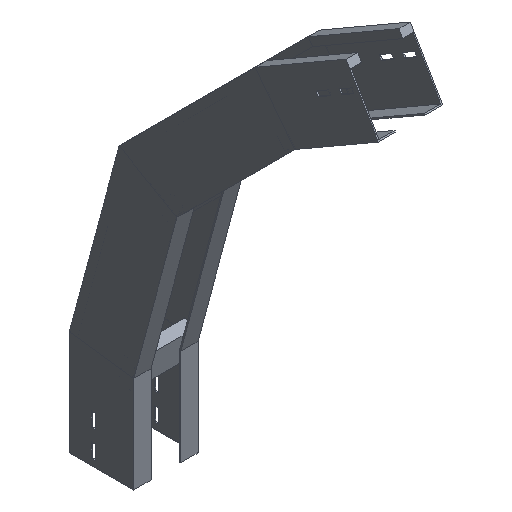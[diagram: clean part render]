
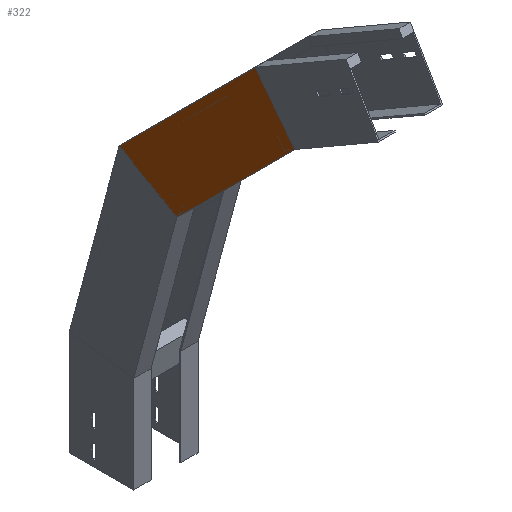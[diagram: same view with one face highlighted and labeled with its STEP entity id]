
A CAD part, isometric view. The second image highlights one B-rep face of the part: STEP entity #322.
In plain terms, the highlighted planar face has unit normal (-1, 0, 0) as drawn and (1, 0, 0) by its records, which use the part's own axes.
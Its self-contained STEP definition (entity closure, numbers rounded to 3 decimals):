
#25 = LINE ( 'NONE', #695, #812 ) ;
#119 = EDGE_CURVE ( 'NONE', #1688, #1453, #1501, .T. ) ;
#141 = LINE ( 'NONE', #669, #1465 ) ;
#153 = AXIS2_PLACEMENT_3D ( 'NONE', #1480, #850, #1078 ) ;
#157 = ORIENTED_EDGE ( 'NONE', *, *, #559, .T. ) ;
#187 = DIRECTION ( 'NONE',  ( 0., -0.991, -0.131 ) ) ;
#191 = VECTOR ( 'NONE', #202, 1000. ) ;
#202 = DIRECTION ( 'NONE',  ( 0., -0.259, 0.966 ) ) ;
#277 = CARTESIAN_POINT ( 'NONE',  ( 0., 100., 163.165 ) ) ;
#294 = VERTEX_POINT ( 'NONE', #277 ) ;
#315 = EDGE_CURVE ( 'NONE', #294, #1688, #1201, .T. ) ;
#317 = CARTESIAN_POINT ( 'NONE',  ( 0., -19.411, 147.444 ) ) ;
#322 = ADVANCED_FACE ( 'NONE', ( #1225 ), #455, .T. ) ;
#334 = ORIENTED_EDGE ( 'NONE', *, *, #315, .F. ) ;
#455 = PLANE ( 'NONE',  #153 ) ;
#505 = CARTESIAN_POINT ( 'NONE',  ( 0., 0., 150. ) ) ;
#525 = ORIENTED_EDGE ( 'NONE', *, *, #119, .F. ) ;
#559 = EDGE_CURVE ( 'NONE', #1053, #1453, #141, .T. ) ;
#669 = CARTESIAN_POINT ( 'NONE',  ( 0., -128.356, 364.771 ) ) ;
#695 = CARTESIAN_POINT ( 'NONE',  ( 0., 100.367, 161.797 ) ) ;
#812 = VECTOR ( 'NONE', #1082, 1000. ) ;
#847 = CARTESIAN_POINT ( 'NONE',  ( 0., 3.774, 135.915 ) ) ;
#850 = DIRECTION ( 'NONE',  ( 1., 0., 0. ) ) ;
#897 = CARTESIAN_POINT ( 'NONE',  ( 0., 22.623, 451.939 ) ) ;
#899 = ORIENTED_EDGE ( 'NONE', *, *, #1285, .T. ) ;
#1053 = VERTEX_POINT ( 'NONE', #897 ) ;
#1078 = DIRECTION ( 'NONE',  ( 0., 0., -1. ) ) ;
#1082 = DIRECTION ( 'NONE',  ( 0., -0.259, 0.966 ) ) ;
#1091 = VECTOR ( 'NONE', #187, 1000. ) ;
#1201 = LINE ( 'NONE', #317, #1091 ) ;
#1225 = FACE_OUTER_BOUND ( 'NONE', #1582, .T. ) ;
#1285 = EDGE_CURVE ( 'NONE', #294, #1053, #25, .T. ) ;
#1443 = DIRECTION ( 'NONE',  ( 0., -0.866, -0.5 ) ) ;
#1453 = VERTEX_POINT ( 'NONE', #1542 ) ;
#1465 = VECTOR ( 'NONE', #1443, 1000. ) ;
#1480 = CARTESIAN_POINT ( 'NONE',  ( 0., 3.774, 135.915 ) ) ;
#1501 = LINE ( 'NONE', #847, #191 ) ;
#1542 = CARTESIAN_POINT ( 'NONE',  ( 0., -67.034, 400.175 ) ) ;
#1582 = EDGE_LOOP ( 'NONE', ( #899, #157, #525, #334 ) ) ;
#1688 = VERTEX_POINT ( 'NONE', #505 ) ;
